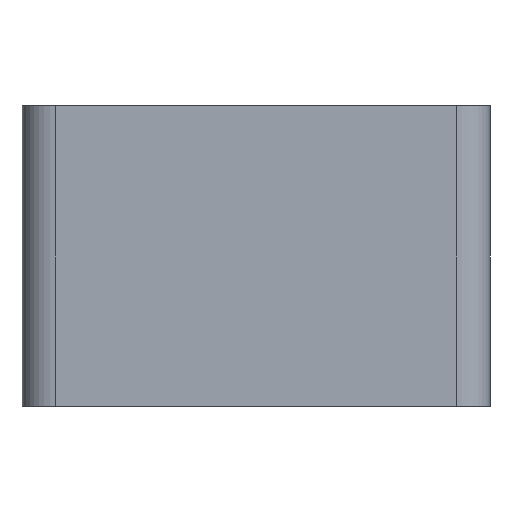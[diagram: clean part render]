
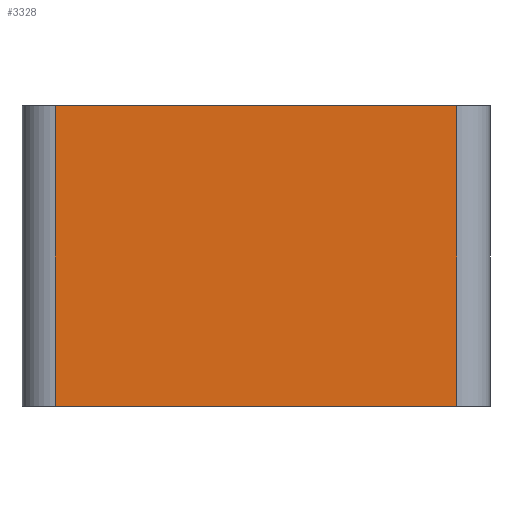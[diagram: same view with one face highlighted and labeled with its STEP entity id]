
A CAD part, left-side view. The second image highlights one B-rep face of the part: STEP entity #3328.
In plain terms, the highlighted planar face has unit normal (-1, 0, 0).
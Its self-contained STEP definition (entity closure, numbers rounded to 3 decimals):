
#2629 = VERTEX_POINT('',#2630);
#2630 = CARTESIAN_POINT('',(-0.45,-0.3,
    0.));
#2637 = EDGE_CURVE('',#2638,#2629,#2640,.T.);
#2638 = VERTEX_POINT('',#2639);
#2639 = CARTESIAN_POINT('',(-0.45,0.3,
    0.));
#2640 = LINE('',#2641,#2642);
#2641 = CARTESIAN_POINT('',(-0.45,-0.35,
    0.));
#2642 = VECTOR('',#2643,1.);
#2643 = DIRECTION('',(-0.,-1.,-0.));
#3328 = ADVANCED_FACE('',(#3329),#3354,.T.);
#3329 = FACE_BOUND('',#3330,.T.);
#3330 = EDGE_LOOP('',(#3331,#3332,#3340,#3348));
#3331 = ORIENTED_EDGE('',*,*,#2637,.T.);
#3332 = ORIENTED_EDGE('',*,*,#3333,.T.);
#3333 = EDGE_CURVE('',#2629,#3334,#3336,.T.);
#3334 = VERTEX_POINT('',#3335);
#3335 = CARTESIAN_POINT('',(-0.45,-0.3,
    0.45));
#3336 = LINE('',#3337,#3338);
#3337 = CARTESIAN_POINT('',(-0.45,-0.3,
    0.));
#3338 = VECTOR('',#3339,1.);
#3339 = DIRECTION('',(0.,0.,1.));
#3340 = ORIENTED_EDGE('',*,*,#3341,.F.);
#3341 = EDGE_CURVE('',#3342,#3334,#3344,.T.);
#3342 = VERTEX_POINT('',#3343);
#3343 = CARTESIAN_POINT('',(-0.45,0.3,
    0.45));
#3344 = LINE('',#3345,#3346);
#3345 = CARTESIAN_POINT('',(-0.45,-0.35,
    0.45));
#3346 = VECTOR('',#3347,1.);
#3347 = DIRECTION('',(-0.,-1.,-0.));
#3348 = ORIENTED_EDGE('',*,*,#3349,.T.);
#3349 = EDGE_CURVE('',#3342,#2638,#3350,.T.);
#3350 = LINE('',#3351,#3352);
#3351 = CARTESIAN_POINT('',(-0.45,0.3,
    0.));
#3352 = VECTOR('',#3353,1.);
#3353 = DIRECTION('',(-0.,-0.,-1.));
#3354 = PLANE('',#3355);
#3355 = AXIS2_PLACEMENT_3D('',#3356,#3357,#3358);
#3356 = CARTESIAN_POINT('',(-0.45,-0.35,
    0.));
#3357 = DIRECTION('',(-1.,0.,0.));
#3358 = DIRECTION('',(0.,0.,1.));
